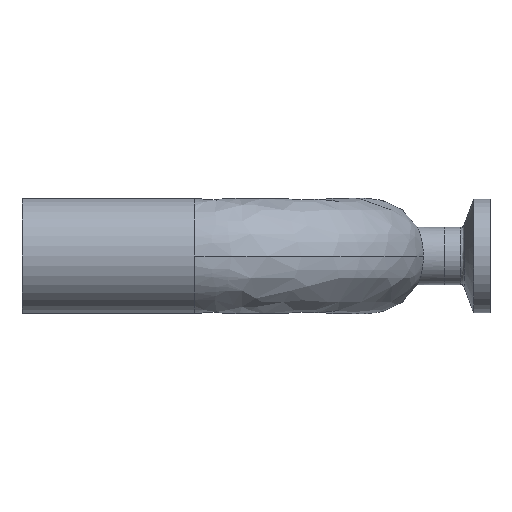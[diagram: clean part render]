
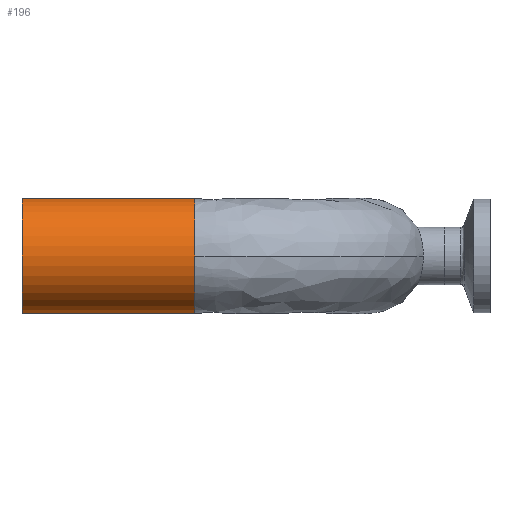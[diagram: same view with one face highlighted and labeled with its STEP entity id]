
A CAD part, left-side view. The second image highlights one B-rep face of the part: STEP entity #196.
In plain terms, the highlighted cylindrical face has radius 12.7 mm (diameter 25.4 mm), a partial arc.
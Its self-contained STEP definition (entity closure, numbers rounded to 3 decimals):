
#27 = DIRECTION ( 'NONE',  ( 0., -1., 0. ) ) ;
#40 = DIRECTION ( 'NONE',  ( -1., 0., 0. ) ) ;
#63 = CARTESIAN_POINT ( 'NONE',  ( -38.1, 76.2, -12.7 ) ) ;
#141 = DIRECTION ( 'NONE',  ( 0., 1., 0. ) ) ;
#190 = CARTESIAN_POINT ( 'NONE',  ( -38.1, 38.1, -12.7 ) ) ;
#196 = ADVANCED_FACE ( 'NONE', ( #473 ), #649, .T. ) ;
#205 = VERTEX_POINT ( 'NONE', #63 ) ;
#270 = CARTESIAN_POINT ( 'NONE',  ( -38.1, 38.1, 12.7 ) ) ;
#316 = DIRECTION ( 'NONE',  ( 0., 0., 1. ) ) ;
#383 = AXIS2_PLACEMENT_3D ( 'NONE', #950, #27, #40 ) ;
#473 = FACE_OUTER_BOUND ( 'NONE', #737, .T. ) ;
#557 = VECTOR ( 'NONE', #141, 1000. ) ;
#563 = EDGE_CURVE ( 'NONE', #1050, #1164, #1107, .T. ) ;
#624 = CARTESIAN_POINT ( 'NONE',  ( -38.1, 38.1, 0. ) ) ;
#636 = EDGE_CURVE ( 'NONE', #1164, #205, #674, .T. ) ;
#649 = CYLINDRICAL_SURFACE ( 'NONE', #778, 12.7 ) ;
#670 = CARTESIAN_POINT ( 'NONE',  ( -38.1, 38.1, 0. ) ) ;
#674 = LINE ( 'NONE', #1034, #557 ) ;
#703 = ORIENTED_EDGE ( 'NONE', *, *, #1111, .F. ) ;
#717 = CARTESIAN_POINT ( 'NONE',  ( -38.1, 76.2, 12.7 ) ) ;
#721 = ORIENTED_EDGE ( 'NONE', *, *, #636, .F. ) ;
#737 = EDGE_LOOP ( 'NONE', ( #721, #749, #703, #1520, #1501 ) ) ;
#749 = ORIENTED_EDGE ( 'NONE', *, *, #563, .F. ) ;
#778 = AXIS2_PLACEMENT_3D ( 'NONE', #624, #1482, #316 ) ;
#784 = CARTESIAN_POINT ( 'NONE',  ( -38.1, 76.2, 0. ) ) ;
#806 = DIRECTION ( 'NONE',  ( -1., 0., 0. ) ) ;
#851 = DIRECTION ( 'NONE',  ( 0., 0., 1. ) ) ;
#856 = CARTESIAN_POINT ( 'NONE',  ( -50.8, 38.1, 0. ) ) ;
#894 = VECTOR ( 'NONE', #1521, 1000. ) ;
#921 = DIRECTION ( 'NONE',  ( 0., -1., 0. ) ) ;
#922 = EDGE_CURVE ( 'NONE', #1353, #1075, #1205, .T. ) ;
#950 = CARTESIAN_POINT ( 'NONE',  ( -38.1, 38.1, 0. ) ) ;
#1022 = AXIS2_PLACEMENT_3D ( 'NONE', #670, #921, #806 ) ;
#1034 = CARTESIAN_POINT ( 'NONE',  ( -38.1, 38.1, -12.7 ) ) ;
#1050 = VERTEX_POINT ( 'NONE', #856 ) ;
#1075 = VERTEX_POINT ( 'NONE', #717 ) ;
#1107 = CIRCLE ( 'NONE', #1022, 12.7 ) ;
#1111 = EDGE_CURVE ( 'NONE', #1353, #1050, #1257, .T. ) ;
#1140 = CARTESIAN_POINT ( 'NONE',  ( -38.1, 38.1, 12.7 ) ) ;
#1164 = VERTEX_POINT ( 'NONE', #190 ) ;
#1205 = LINE ( 'NONE', #1140, #894 ) ;
#1239 = EDGE_CURVE ( 'NONE', #1075, #205, #1523, .T. ) ;
#1257 = CIRCLE ( 'NONE', #383, 12.7 ) ;
#1353 = VERTEX_POINT ( 'NONE', #270 ) ;
#1482 = DIRECTION ( 'NONE',  ( 0., 1., 0. ) ) ;
#1501 = ORIENTED_EDGE ( 'NONE', *, *, #1239, .T. ) ;
#1520 = ORIENTED_EDGE ( 'NONE', *, *, #922, .T. ) ;
#1521 = DIRECTION ( 'NONE',  ( 0., 1., 0. ) ) ;
#1523 = CIRCLE ( 'NONE', #1534, 12.7 ) ;
#1534 = AXIS2_PLACEMENT_3D ( 'NONE', #784, #1556, #851 ) ;
#1556 = DIRECTION ( 'NONE',  ( 0., -1., 0. ) ) ;
